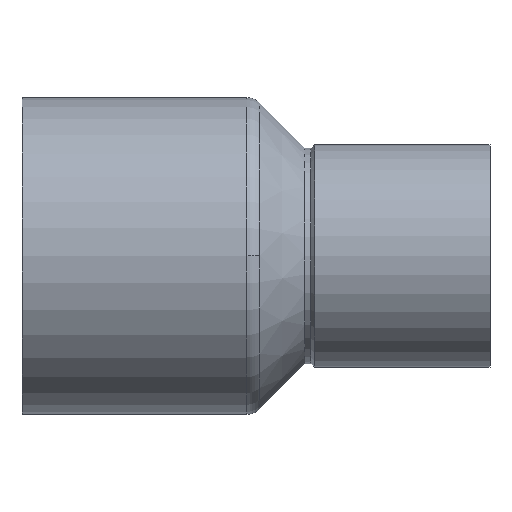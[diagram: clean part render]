
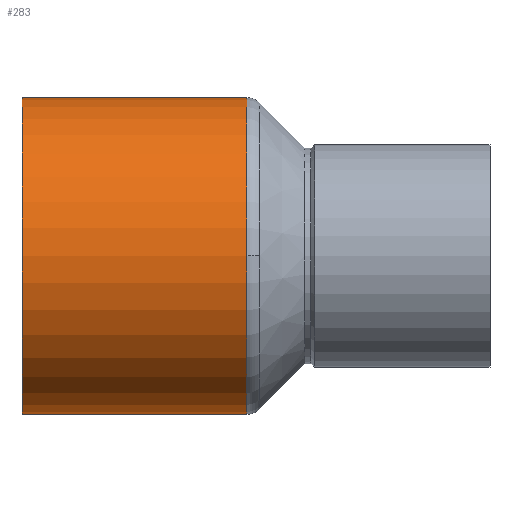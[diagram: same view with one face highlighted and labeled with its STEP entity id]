
A CAD part, top view. The second image highlights one B-rep face of the part: STEP entity #283.
In plain terms, the highlighted cylindrical face has radius 8.455 mm (diameter 16.91 mm), a partial arc.
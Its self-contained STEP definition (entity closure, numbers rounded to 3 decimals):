
#207=CARTESIAN_POINT('',(12.,8.455,0.0));
#208=VERTEX_POINT('',#207);
#216=CARTESIAN_POINT('',(12.0,0.,8.455));
#217=VERTEX_POINT('',#216);
#218=CARTESIAN_POINT('',(12.,0.0,0.0));
#219=DIRECTION('',(1.0,0.0,0.0));
#220=DIRECTION('',(0.0,1.0,0.0));
#221=AXIS2_PLACEMENT_3D('',#218,#219,#220);
#222=CIRCLE('',#221,8.455);
#223=EDGE_CURVE('',#208,#217,#222,.T.);
#243=CARTESIAN_POINT('',(6.,0.0,0.0));
#244=DIRECTION('',(1.0,0.0,0.0));
#245=DIRECTION('',(0.0,1.0,0.0));
#246=AXIS2_PLACEMENT_3D('',#243,#244,#245);
#247=CYLINDRICAL_SURFACE('',#246,8.455);
#248=CARTESIAN_POINT('',(0.0,8.455,0.0));
#249=VERTEX_POINT('',#248);
#250=CARTESIAN_POINT('',(0.0,8.455,0.0));
#251=DIRECTION('',(1.0,0.0,0.0));
#252=VECTOR('',#251,12.);
#253=LINE('',#250,#252);
#254=EDGE_CURVE('',#249,#208,#253,.T.);
#255=ORIENTED_EDGE('',*,*,#254,.F.);
#256=CARTESIAN_POINT('',(0.0,-8.455,0.));
#257=VERTEX_POINT('',#256);
#258=CARTESIAN_POINT('',(0.0,0.0,0.0));
#259=DIRECTION('',(1.0,0.0,0.0));
#260=DIRECTION('',(0.0,1.0,0.0));
#261=AXIS2_PLACEMENT_3D('',#258,#259,#260);
#262=CIRCLE('',#261,8.455);
#263=EDGE_CURVE('',#249,#257,#262,.T.);
#264=ORIENTED_EDGE('',*,*,#263,.T.);
#265=CARTESIAN_POINT('',(12.,-8.455,0.));
#266=VERTEX_POINT('',#265);
#267=CARTESIAN_POINT('',(12.,-8.455,0.));
#268=DIRECTION('',(-1.0,0.0,0.0));
#269=VECTOR('',#268,12.);
#270=LINE('',#267,#269);
#271=EDGE_CURVE('',#266,#257,#270,.T.);
#272=ORIENTED_EDGE('',*,*,#271,.F.);
#273=CARTESIAN_POINT('',(12.,0.0,0.0));
#274=DIRECTION('',(1.0,0.0,0.0));
#275=DIRECTION('',(0.0,1.0,0.0));
#276=AXIS2_PLACEMENT_3D('',#273,#274,#275);
#277=CIRCLE('',#276,8.455);
#278=EDGE_CURVE('',#217,#266,#277,.T.);
#279=ORIENTED_EDGE('',*,*,#278,.F.);
#280=ORIENTED_EDGE('',*,*,#223,.F.);
#281=EDGE_LOOP('',(#255,#264,#272,#279,#280));
#282=FACE_OUTER_BOUND('',#281,.T.);
#283=ADVANCED_FACE('',(#282),#247,.T.);
